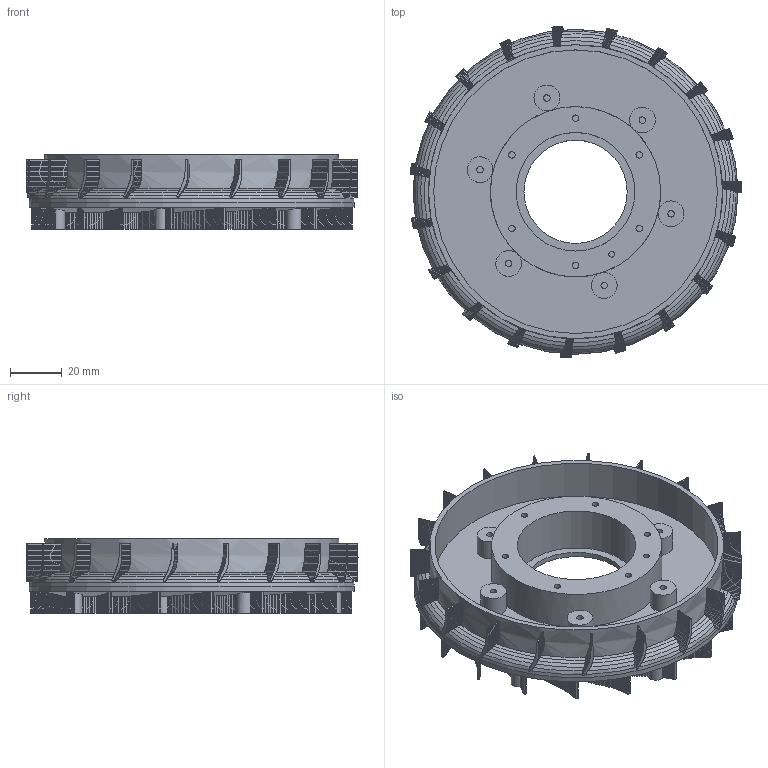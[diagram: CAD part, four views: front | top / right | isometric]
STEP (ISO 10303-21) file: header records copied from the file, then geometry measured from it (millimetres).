
FILE_DESCRIPTION(('Open CASCADE Model'),'2;1');
FILE_NAME('Open CASCADE Shape Model','2026-09-23T13:33:05',('Author'),( 'Open CASCADE'),'Open CASCADE STEP processor 7.9','Open CASCADE 7.9' ,'Unknown');
FILE_SCHEMA(('AUTOMOTIVE_DESIGN { 1 0 10303 214 1 1 1 1 }'));
Length unit declared in the file: millimetre
Products named in the file (1): Open CASCADE STEP translator 7.9 1
Bounding box: 128.54 x 128.7 x 28.84 mm (x, y, z)
Volume: 105219 mm3; surface area: 54022.2 mm2
Topology: 1 solids, 1 shells, 3173 faces, 9464 edges, 6318 vertices
Faces by surface type: plane 2986, cone 97, cylinder 90
Full cylindrical faces by diameter (mm): 0.5 x1, 1.5 x1, 2.2 x1, 2.5 x18, 40 x1, 46 x1, 66 x1, 93.2 x1, 110 x1, 114 x1, 126 x1
Entity records: 248545 total; most frequent: CARTESIAN_POINT 69826, DIRECTION 32633, ORIENTED_EDGE 18928, PCURVE 18928, DEFINITIONAL_REPRESENTATION 18928, LINE 14211, VECTOR 14211, EDGE_CURVE 9464
